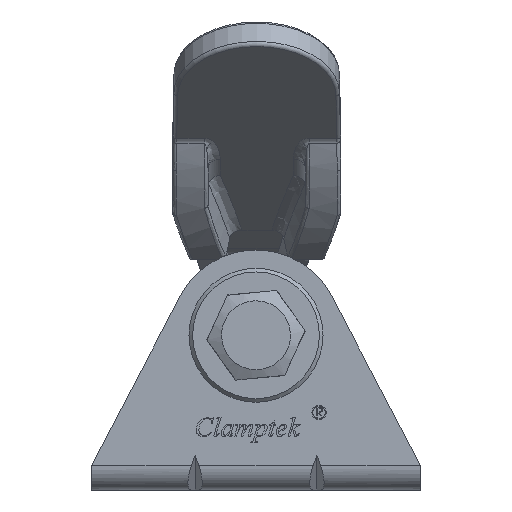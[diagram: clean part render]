
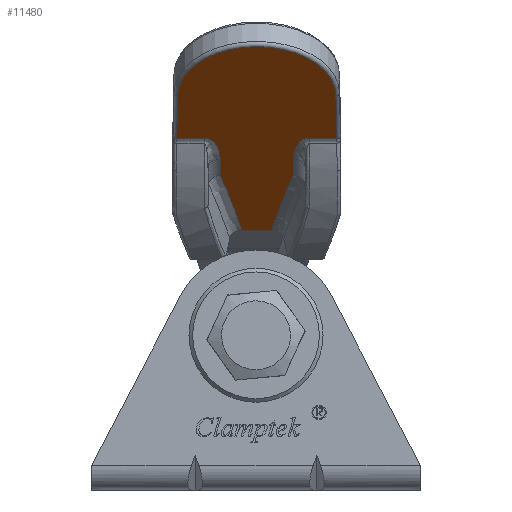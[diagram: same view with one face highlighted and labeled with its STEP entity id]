
A CAD part, left-side view. The second image highlights one B-rep face of the part: STEP entity #11480.
In plain terms, the highlighted planar face has unit normal (-0.623, 0, -0.782) as drawn and (-0.703, -0.712, 0) by its records, which use the part's own axes.
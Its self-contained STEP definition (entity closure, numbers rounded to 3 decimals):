
#281=ELLIPSE('',#12480,72.063,48.069);
#282=ELLIPSE('',#12481,72.063,48.069);
#473=PLANE('',#12479);
#906=FACE_OUTER_BOUND('',#1567,.T.);
#1567=EDGE_LOOP('',(#8627,#8628,#8629,#8630,#8631,#8632,#8633,#8634,#8635,
#8636,#8637,#8638));
#2192=CIRCLE('',#12436,6.5);
#2501=B_SPLINE_CURVE_WITH_KNOTS('',3,(#35255,#35256,#35257,#35258,#35259,
#35260,#35261,#35262,#35263,#35264,#35265,#35266,#35267,#35268),
 .UNSPECIFIED.,.F.,.F.,(4,2,2,2,2,2,4),(0.,0.001,0.002,
0.002,0.003,0.003,0.003),
 .UNSPECIFIED.);
#2502=B_SPLINE_CURVE_WITH_KNOTS('',3,(#35277,#35278,#35279,#35280,#35281,
#35282,#35283,#35284,#35285,#35286,#35287,#35288),.UNSPECIFIED.,.F.,.F.,
(4,2,2,2,2,4),(0.,0.,0.001,0.002,
0.003,0.003),.UNSPECIFIED.);
#3064=LINE('',#34989,#3951);
#3082=LINE('',#35270,#3969);
#3083=LINE('',#35271,#3970);
#3084=LINE('',#35273,#3971);
#3085=LINE('',#35275,#3972);
#3086=LINE('',#35290,#3973);
#3087=LINE('',#35294,#3974);
#3951=VECTOR('',#13656,1000.);
#3969=VECTOR('',#13742,1000.);
#3970=VECTOR('',#13743,1000.);
#3971=VECTOR('',#13744,1000.);
#3972=VECTOR('',#13745,1000.);
#3973=VECTOR('',#13746,1000.);
#3974=VECTOR('',#13751,1000.);
#4977=VERTEX_POINT('',#34876);
#4978=VERTEX_POINT('',#34877);
#4995=VERTEX_POINT('',#34977);
#4996=VERTEX_POINT('',#34988);
#5043=VERTEX_POINT('',#35253);
#5044=VERTEX_POINT('',#35254);
#5045=VERTEX_POINT('',#35269);
#5046=VERTEX_POINT('',#35272);
#5047=VERTEX_POINT('',#35274);
#5048=VERTEX_POINT('',#35276);
#5049=VERTEX_POINT('',#35289);
#5050=VERTEX_POINT('',#35292);
#6307=EDGE_CURVE('',#4977,#4978,#2192,.T.);
#6327=EDGE_CURVE('',#4995,#4996,#3064,.T.);
#6387=EDGE_CURVE('',#5043,#5044,#2501,.T.);
#6388=EDGE_CURVE('',#5044,#5045,#3082,.T.);
#6389=EDGE_CURVE('',#5045,#4977,#3083,.T.);
#6390=EDGE_CURVE('',#4978,#5046,#3084,.T.);
#6391=EDGE_CURVE('',#5046,#5047,#3085,.T.);
#6392=EDGE_CURVE('',#5047,#5048,#2502,.T.);
#6393=EDGE_CURVE('',#5048,#5049,#3086,.T.);
#6394=EDGE_CURVE('',#5049,#4996,#281,.T.);
#6395=EDGE_CURVE('',#4995,#5050,#282,.T.);
#6396=EDGE_CURVE('',#5050,#5043,#3087,.T.);
#8627=ORIENTED_EDGE('',*,*,#6387,.T.);
#8628=ORIENTED_EDGE('',*,*,#6388,.T.);
#8629=ORIENTED_EDGE('',*,*,#6389,.T.);
#8630=ORIENTED_EDGE('',*,*,#6307,.T.);
#8631=ORIENTED_EDGE('',*,*,#6390,.T.);
#8632=ORIENTED_EDGE('',*,*,#6391,.T.);
#8633=ORIENTED_EDGE('',*,*,#6392,.T.);
#8634=ORIENTED_EDGE('',*,*,#6393,.T.);
#8635=ORIENTED_EDGE('',*,*,#6394,.T.);
#8636=ORIENTED_EDGE('',*,*,#6327,.F.);
#8637=ORIENTED_EDGE('',*,*,#6395,.T.);
#8638=ORIENTED_EDGE('',*,*,#6396,.T.);
#11480=ADVANCED_FACE('',(#906),#473,.F.);
#12436=AXIS2_PLACEMENT_3D('',#34878,#13631,#13632);
#12479=AXIS2_PLACEMENT_3D('',#35252,#13740,#13741);
#12480=AXIS2_PLACEMENT_3D('',#35291,#13747,#13748);
#12481=AXIS2_PLACEMENT_3D('',#35293,#13749,#13750);
#13631=DIRECTION('center_axis',(-0.703,-0.712,0.));
#13632=DIRECTION('ref_axis',(-0.712,0.703,0.));
#13656=DIRECTION('',(0.,0.,-1.));
#13740=DIRECTION('center_axis',(0.703,0.712,0.));
#13741=DIRECTION('ref_axis',(-0.712,0.703,0.));
#13742=DIRECTION('',(0.,0.,1.));
#13743=DIRECTION('',(-0.712,0.702,-0.012));
#13744=DIRECTION('',(0.712,-0.702,-0.012));
#13745=DIRECTION('',(0.,0.,1.));
#13746=DIRECTION('',(0.712,-0.703,0.));
#13747=DIRECTION('center_axis',(0.703,0.712,0.));
#13748=DIRECTION('ref_axis',(0.708,-0.699,0.103));
#13749=DIRECTION('center_axis',(0.703,0.712,0.));
#13750=DIRECTION('ref_axis',(0.708,-0.699,-0.103));
#13751=DIRECTION('',(-0.712,0.703,0.));
#34876=CARTESIAN_POINT('',(-36.657,24.679,21.499));
#34877=CARTESIAN_POINT('',(-36.657,24.679,8.499));
#34878=CARTESIAN_POINT('Origin',(-36.659,24.681,14.999));
#34977=CARTESIAN_POINT('',(-24.071,12.254,16.222));
#34988=CARTESIAN_POINT('',(-24.071,12.254,13.778));
#34989=CARTESIAN_POINT('',(-24.071,12.254,0.));
#35252=CARTESIAN_POINT('Origin',(-48.763,36.629,0.));
#35253=CARTESIAN_POINT('',(-30.717,18.815,18.));
#35254=CARTESIAN_POINT('',(-32.702,20.775,19.3));
#35255=CARTESIAN_POINT('Ctrl Pts',(-30.717,18.815,18.));
#35256=CARTESIAN_POINT('Ctrl Pts',(-30.915,19.01,18.));
#35257=CARTESIAN_POINT('Ctrl Pts',(-31.112,19.205,18.015));
#35258=CARTESIAN_POINT('Ctrl Pts',(-31.502,19.59,18.084));
#35259=CARTESIAN_POINT('Ctrl Pts',(-31.696,19.781,18.138));
#35260=CARTESIAN_POINT('Ctrl Pts',(-32.074,20.155,18.309));
#35261=CARTESIAN_POINT('Ctrl Pts',(-32.259,20.337,18.425));
#35262=CARTESIAN_POINT('Ctrl Pts',(-32.493,20.568,18.683));
#35263=CARTESIAN_POINT('Ctrl Pts',(-32.563,20.638,18.784));
#35264=CARTESIAN_POINT('Ctrl Pts',(-32.643,20.716,18.963));
#35265=CARTESIAN_POINT('Ctrl Pts',(-32.664,20.737,19.026));
#35266=CARTESIAN_POINT('Ctrl Pts',(-32.694,20.767,19.159));
#35267=CARTESIAN_POINT('Ctrl Pts',(-32.702,20.775,19.229));
#35268=CARTESIAN_POINT('Ctrl Pts',(-32.702,20.775,19.3));
#35269=CARTESIAN_POINT('',(-32.702,20.775,21.566));
#35270=CARTESIAN_POINT('',(-32.702,20.775,0.));
#35271=CARTESIAN_POINT('',(-48.946,36.81,21.29));
#35272=CARTESIAN_POINT('',(-32.702,20.775,8.433));
#35273=CARTESIAN_POINT('',(-48.69,36.557,8.697));
#35274=CARTESIAN_POINT('',(-32.702,20.775,10.7));
#35275=CARTESIAN_POINT('',(-32.702,20.775,0.));
#35276=CARTESIAN_POINT('',(-30.717,18.815,12.));
#35277=CARTESIAN_POINT('Ctrl Pts',(-32.702,20.775,10.7));
#35278=CARTESIAN_POINT('Ctrl Pts',(-32.702,20.775,10.842));
#35279=CARTESIAN_POINT('Ctrl Pts',(-32.669,20.742,10.978));
#35280=CARTESIAN_POINT('Ctrl Pts',(-32.563,20.638,11.216));
#35281=CARTESIAN_POINT('Ctrl Pts',(-32.493,20.568,11.317));
#35282=CARTESIAN_POINT('Ctrl Pts',(-32.257,20.336,11.576));
#35283=CARTESIAN_POINT('Ctrl Pts',(-32.074,20.155,11.691));
#35284=CARTESIAN_POINT('Ctrl Pts',(-31.696,19.782,11.862));
#35285=CARTESIAN_POINT('Ctrl Pts',(-31.503,19.591,11.916));
#35286=CARTESIAN_POINT('Ctrl Pts',(-31.113,19.206,11.985));
#35287=CARTESIAN_POINT('Ctrl Pts',(-30.915,19.01,12.));
#35288=CARTESIAN_POINT('Ctrl Pts',(-30.717,18.815,12.));
#35289=CARTESIAN_POINT('',(-29.219,17.336,12.));
#35290=CARTESIAN_POINT('',(-48.763,36.629,12.));
#35291=CARTESIAN_POINT('Origin',(-12.819,1.147,-32.348));
#35292=CARTESIAN_POINT('',(-29.219,17.336,18.));
#35293=CARTESIAN_POINT('Origin',(-12.819,1.147,62.348));
#35294=CARTESIAN_POINT('',(-48.763,36.629,18.));
